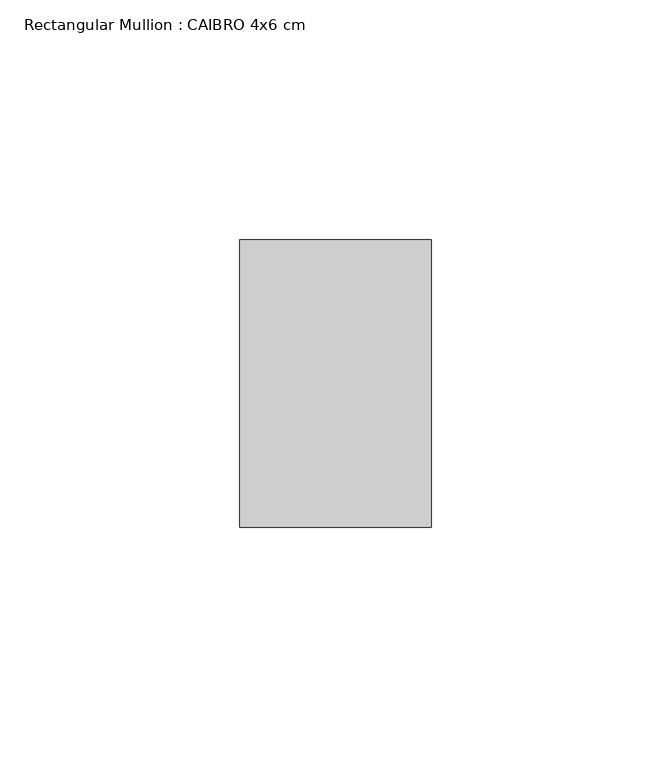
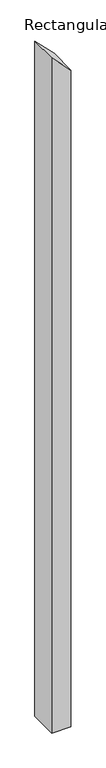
"""IFC4 building model written with IfcOpenShell, lengths in millimetres: member geometry, Rectangular Mullion : CAIBRO 4x6 cm."""

from ifc_helpers import new_model, si_unit, frame, origin, place, context, project, spatial, polyline, outline, extrude, source, transform, mapped, element, save


def rectangular_mullion_caibro_4x6_cm_ab382801(model_context):
    return source(origin(), model_context, "Body", "SweptSolid", [
        extrude(outline(polyline([(-77.109599, 20.0), (-36.6621022, -20.0), (-1514.3826176, -20.0), (-1514.3826176, 20.0), (-77.109599, 20.0)])), frame((0.0, 0.0, 0.0), z_axis=(0.0, 1.0, 0.0), x_axis=(0.0, 0.0, 1.0)), (0.0, 0.0, 1.0), 60.0),
    ])


if __name__ == "__main__":
    model = new_model("IFC4")
    model_context = context("Model", 3, world=origin())
    ifc_project = project(units=[si_unit("LENGTHUNIT", "METRE", prefix="MILLI")], contexts=[model_context])
    site = spatial("IfcSite", under=ifc_project)
    building = spatial("IfcBuilding", under=site)
    placement = place(None, origin())
    rectangular_mullion_caibro_4x6_cm_shape = rectangular_mullion_caibro_4x6_cm_ab382801(model_context)
    element("IfcMember", 1, ObjectType="Rectangular Mullion : CAIBRO 4x6 cm", at=placement, inside=building, context=model_context, shape_type="MappedRepresentation", body=[
        mapped(rectangular_mullion_caibro_4x6_cm_shape, transform((0.0, 0.0, 0.0), x_axis=(1.0, 0.0, 0.0), y_axis=(0.0, 1.0, 0.0), z_axis=(0.0, 0.0, 1.0))),
    ])
    save(model, "model.ifc")
